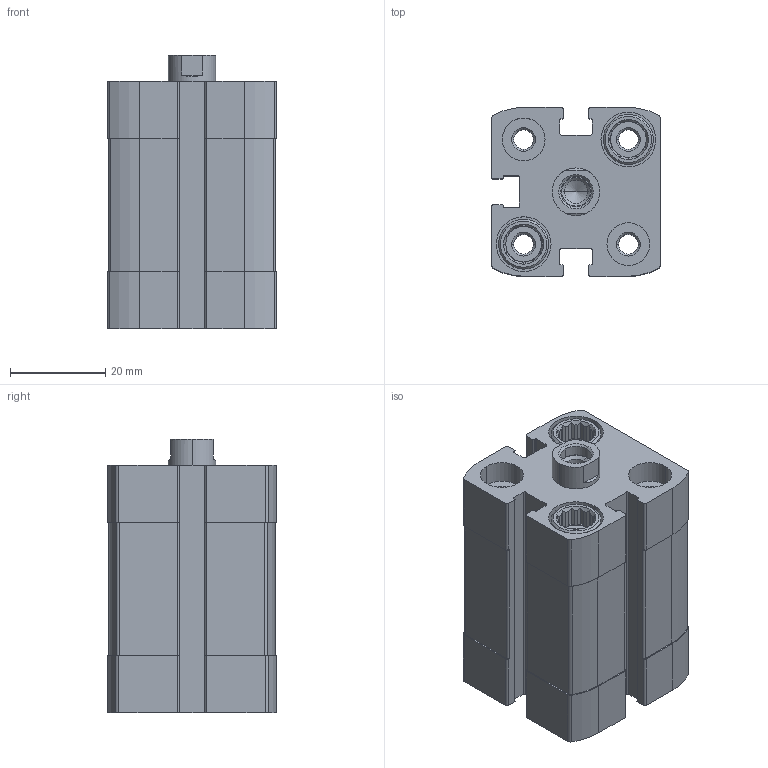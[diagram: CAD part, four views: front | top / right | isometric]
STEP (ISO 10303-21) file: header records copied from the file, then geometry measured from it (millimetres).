
FILE_DESCRIPTION (( 'STEP AP203' ), '1' );
FILE_NAME ('CCN20-15F.STEP', '2017-03-28T15:18:28', ( '' ), ( '' ), 'SwSTEP 2.0', 'SolidWorks 2016', '' );
FILE_SCHEMA (( 'CONFIG_CONTROL_DESIGN' ));
Length unit declared in the file: millimetre
Products named in the file (3): CCN-15---(Z); CCN-15_(KS); CCN20-15F
Assembly tree (2 placements, depth 2):
  CCN20-15F
    CCN-15---(Z)
    CCN-15_(KS)
Bounding box: 35.5 x 35.5 x 57.5 mm (x, y, z)
Volume: 48922.1 mm3; surface area: 21634 mm2
Topology: 2 solids, 2 shells, 407 faces, 1082 edges, 709 vertices
Faces by surface type: plane 231, cylinder 134, cone 42
Entity records: 13141 total; most frequent: CARTESIAN_POINT 2495, DIRECTION 2220, ORIENTED_EDGE 2160, EDGE_CURVE 1080, AXIS2_PLACEMENT_3D 826, VERTEX_POINT 709, LINE 568, VECTOR 568
